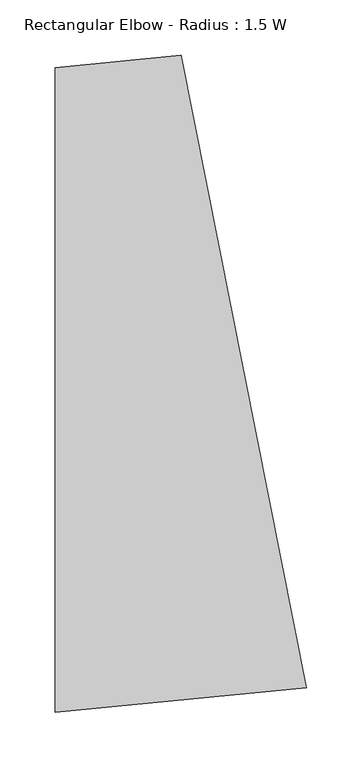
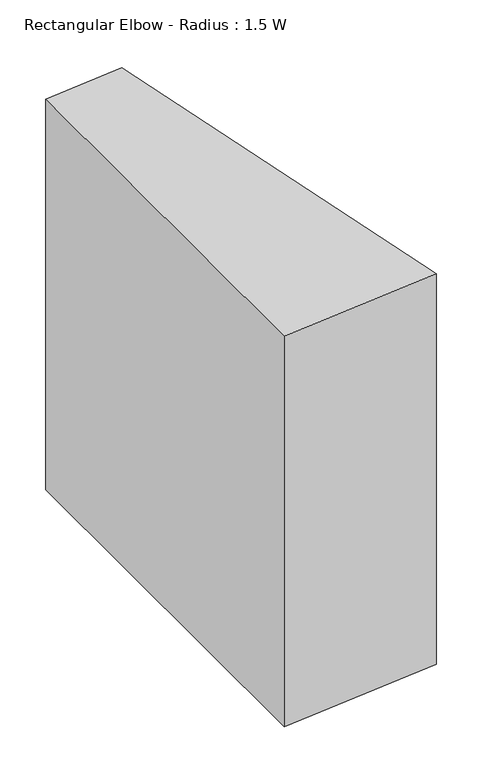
"""IFC4 building model written with IfcOpenShell, lengths in millimetres: duct fitting geometry, Rectangular Elbow - Radius : 1.5 W."""

from ifc_helpers import new_model, si_unit, point, frame, frame_2d, origin, place, context, project, spatial, polyline, circle_curve, trimmed, segment, composite_curve, outline, extrude, source, transform, mapped, element, save


def rectangular_elbow_radius_1_5_w_d691a628(model_context):
    return source(origin(), model_context, "Body", "SweptSolid", [
        extrude(outline(composite_curve([segment(trimmed(circle_curve(frame_2d((-85.8389869, 871.5375)), 1162.05), [point((140.8658136, -268.1840168))], [point((-85.8389869, -290.5125))], False, "CARTESIAN"), True, "CONTINUOUS"), segment(polyline([(-85.8389869, -290.5125), (-85.8389869, 290.5125)]), True, "CONTINUOUS"), segment(trimmed(circle_curve(frame_2d((-85.8389869, 871.5375)), 581.025), [point((-85.8389869, 290.5125))], [point((27.5134134, 301.6767416))], True, "CARTESIAN"), True, "CONTINUOUS"), segment(polyline([(27.5134134, 301.6767416), (140.8658136, -268.1840168)]), True, "CONTINUOUS")], self_intersect=False)), frame((0.0, 0.0, -290.5125), z_axis=(0.0, 0.0, 1.0), x_axis=(1.0, 0.0, 0.0)), (0.0, 0.0, 1.0), 581.025),
    ])


if __name__ == "__main__":
    model = new_model("IFC4")
    model_context = context("Model", 3, world=origin())
    ifc_project = project(units=[si_unit("LENGTHUNIT", "METRE", prefix="MILLI")], contexts=[model_context])
    site = spatial("IfcSite", under=ifc_project)
    building = spatial("IfcBuilding", under=site)
    placement = place(None, origin())
    rectangular_elbow_radius_1_5_w_shape = rectangular_elbow_radius_1_5_w_d691a628(model_context)
    element("IfcDuctFitting", 1, ObjectType="Rectangular Elbow - Radius : 1.5 W", at=placement, inside=building, context=model_context, shape_type="MappedRepresentation", body=[
        mapped(rectangular_elbow_radius_1_5_w_shape, transform((0.0, 0.0, 0.0), x_axis=(1.0, 0.0, 0.0), y_axis=(0.0, 1.0, 0.0), z_axis=(0.0, 0.0, 1.0))),
    ])
    save(model, "model.ifc")
